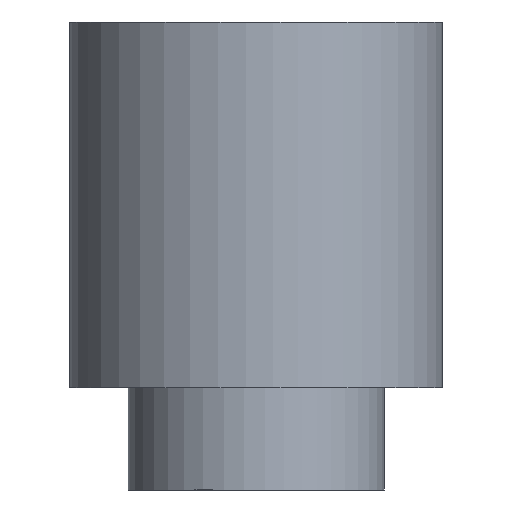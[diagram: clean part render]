
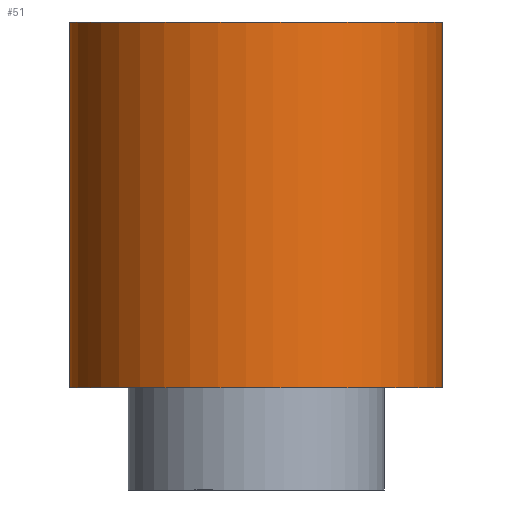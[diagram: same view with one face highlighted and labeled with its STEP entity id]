
A CAD part, front view. The second image highlights one B-rep face of the part: STEP entity #51.
In plain terms, the highlighted free-form (B-spline) face has degree [2, 1] with [7, 2] control points.
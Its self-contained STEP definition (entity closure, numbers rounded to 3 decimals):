
#35 = EDGE_CURVE('',#36,#36,#38,.T.);
#36 = VERTEX_POINT('',#37);
#37 = CARTESIAN_POINT('',(-2.55,0.,5.));
#38 = ( BOUNDED_CURVE() B_SPLINE_CURVE(2,(#39,#40,#41,#42,#43,#44,#45),
.UNSPECIFIED.,.T.,.F.) B_SPLINE_CURVE_WITH_KNOTS((1,2,2,2,2,1),(
    -2.094,0.,2.094,4.189,6.283,
8.378),.UNSPECIFIED.) CURVE() GEOMETRIC_REPRESENTATION_ITEM() 
RATIONAL_B_SPLINE_CURVE((1.,0.5,1.,0.5,1.,0.5,1.)) REPRESENTATION_ITEM(
  '') );
#39 = CARTESIAN_POINT('',(-2.55,0.,5.));
#40 = CARTESIAN_POINT('',(-2.55,4.417,5.));
#41 = CARTESIAN_POINT('',(1.275,2.208,5.));
#42 = CARTESIAN_POINT('',(5.1,0.,5.));
#43 = CARTESIAN_POINT('',(1.275,-2.208,5.));
#44 = CARTESIAN_POINT('',(-2.55,-4.417,5.));
#45 = CARTESIAN_POINT('',(-2.55,0.,5.));
#51 = ADVANCED_FACE('',(#52),#73,.T.);
#52 = FACE_BOUND('',#53,.T.);
#53 = EDGE_LOOP('',(#54,#55,#62,#72));
#54 = ORIENTED_EDGE('',*,*,#35,.T.);
#55 = ORIENTED_EDGE('',*,*,#56,.F.);
#56 = EDGE_CURVE('',#57,#36,#59,.T.);
#57 = VERTEX_POINT('',#58);
#58 = CARTESIAN_POINT('',(-2.55,0.,0.));
#59 = B_SPLINE_CURVE_WITH_KNOTS('',1,(#60,#61),.UNSPECIFIED.,.F.,.F.,(2,
    2),(-5.,0.),.PIECEWISE_BEZIER_KNOTS.);
#60 = CARTESIAN_POINT('',(-2.55,0.,0.));
#61 = CARTESIAN_POINT('',(-2.55,0.,5.));
#62 = ORIENTED_EDGE('',*,*,#63,.F.);
#63 = EDGE_CURVE('',#57,#57,#64,.T.);
#64 = ( BOUNDED_CURVE() B_SPLINE_CURVE(2,(#65,#66,#67,#68,#69,#70,#71),
.UNSPECIFIED.,.T.,.F.) B_SPLINE_CURVE_WITH_KNOTS((1,2,2,2,2,1),(
    -2.094,0.,2.094,4.189,6.283,
8.378),.UNSPECIFIED.) CURVE() GEOMETRIC_REPRESENTATION_ITEM() 
RATIONAL_B_SPLINE_CURVE((1.,0.5,1.,0.5,1.,0.5,1.)) REPRESENTATION_ITEM(
  '') );
#65 = CARTESIAN_POINT('',(-2.55,0.,0.));
#66 = CARTESIAN_POINT('',(-2.55,4.417,0.));
#67 = CARTESIAN_POINT('',(1.275,2.208,0.));
#68 = CARTESIAN_POINT('',(5.1,0.,0.));
#69 = CARTESIAN_POINT('',(1.275,-2.208,0.));
#70 = CARTESIAN_POINT('',(-2.55,-4.417,0.));
#71 = CARTESIAN_POINT('',(-2.55,0.,0.));
#72 = ORIENTED_EDGE('',*,*,#56,.T.);
#73 = ( BOUNDED_SURFACE() B_SPLINE_SURFACE(2,1,(
    (#74,#75)
    ,(#76,#77)
    ,(#78,#79)
    ,(#80,#81)
    ,(#82,#83)
    ,(#84,#85)
,(#86,#87
    )),.UNSPECIFIED.,.T.,.F.,.F.) B_SPLINE_SURFACE_WITH_KNOTS((1,2,2,2,2
    ,1),(2,2),(-2.094,0.,2.094,4.189,
    6.283,8.378),(-5.,0.),.UNSPECIFIED.) 
GEOMETRIC_REPRESENTATION_ITEM() RATIONAL_B_SPLINE_SURFACE((
    (1.,1.)
    ,(0.5,0.5)
    ,(1.,1.)
    ,(0.5,0.5)
    ,(1.,1.)
    ,(0.5,0.5)
,(1.,1.))) REPRESENTATION_ITEM('') SURFACE() );
#74 = CARTESIAN_POINT('',(-2.55,0.,0.));
#75 = CARTESIAN_POINT('',(-2.55,0.,5.));
#76 = CARTESIAN_POINT('',(-2.55,-4.417,0.));
#77 = CARTESIAN_POINT('',(-2.55,-4.417,5.));
#78 = CARTESIAN_POINT('',(1.275,-2.208,0.));
#79 = CARTESIAN_POINT('',(1.275,-2.208,5.));
#80 = CARTESIAN_POINT('',(5.1,0.,0.));
#81 = CARTESIAN_POINT('',(5.1,0.,5.));
#82 = CARTESIAN_POINT('',(1.275,2.208,0.));
#83 = CARTESIAN_POINT('',(1.275,2.208,5.));
#84 = CARTESIAN_POINT('',(-2.55,4.417,0.));
#85 = CARTESIAN_POINT('',(-2.55,4.417,5.));
#86 = CARTESIAN_POINT('',(-2.55,0.,0.));
#87 = CARTESIAN_POINT('',(-2.55,0.,5.));
